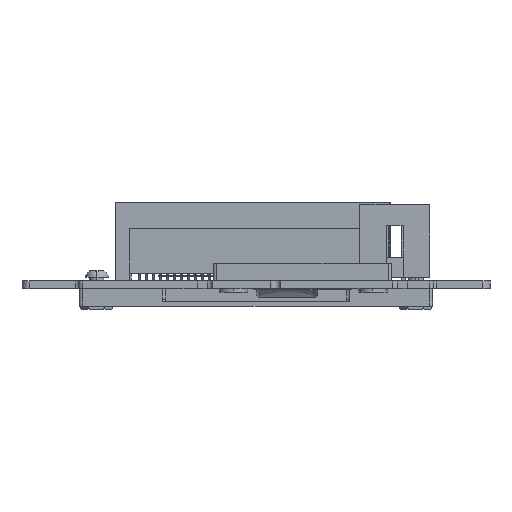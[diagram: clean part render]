
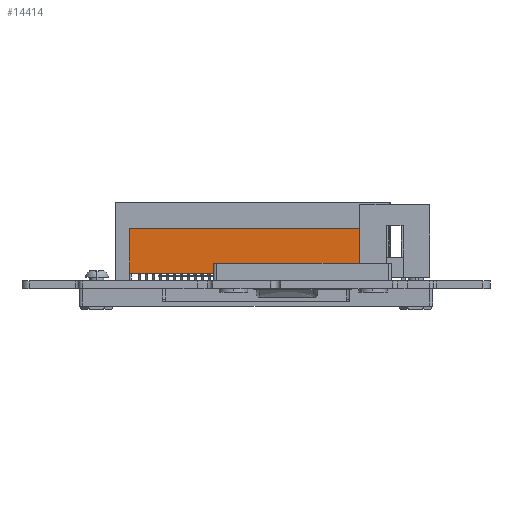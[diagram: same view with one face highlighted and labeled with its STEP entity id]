
A CAD part, front view. The second image highlights one B-rep face of the part: STEP entity #14414.
In plain terms, the highlighted planar face has unit normal (0, -1, 0) as drawn and (0, 0, 1) by its records, which use the part's own axes.
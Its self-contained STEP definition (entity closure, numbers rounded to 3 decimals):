
#9958 = VERTEX_POINT('',#9959);
#9959 = CARTESIAN_POINT('',(2.417,-7.333,3.965));
#10038 = VERTEX_POINT('',#10039);
#10039 = CARTESIAN_POINT('',(37.838,-7.333,3.965));
#10045 = EDGE_CURVE('',#10038,#9958,#10046,.T.);
#10046 = LINE('',#10047,#10048);
#10047 = CARTESIAN_POINT('',(31.028,-7.333,3.965));
#10048 = VECTOR('',#10049,1.);
#10049 = DIRECTION('',(-1.,0.,0.));
#14414 = ADVANCED_FACE('',(#14415),#14440,.F.);
#14415 = FACE_BOUND('',#14416,.T.);
#14416 = EDGE_LOOP('',(#14417,#14427,#14433,#14434));
#14417 = ORIENTED_EDGE('',*,*,#14418,.F.);
#14418 = EDGE_CURVE('',#14419,#14421,#14423,.T.);
#14419 = VERTEX_POINT('',#14420);
#14420 = CARTESIAN_POINT('',(2.417,-0.883,3.965));
#14421 = VERTEX_POINT('',#14422);
#14422 = CARTESIAN_POINT('',(37.838,-0.883,3.965));
#14423 = LINE('',#14424,#14425);
#14424 = CARTESIAN_POINT('',(-47.162,-0.883,3.965));
#14425 = VECTOR('',#14426,1.);
#14426 = DIRECTION('',(1.,0.,0.));
#14427 = ORIENTED_EDGE('',*,*,#14428,.T.);
#14428 = EDGE_CURVE('',#14419,#9958,#14429,.T.);
#14429 = LINE('',#14430,#14431);
#14430 = CARTESIAN_POINT('',(2.417,-0.883,3.965));
#14431 = VECTOR('',#14432,1.);
#14432 = DIRECTION('',(0.,-1.,0.));
#14433 = ORIENTED_EDGE('',*,*,#10045,.F.);
#14434 = ORIENTED_EDGE('',*,*,#14435,.F.);
#14435 = EDGE_CURVE('',#14421,#10038,#14436,.T.);
#14436 = LINE('',#14437,#14438);
#14437 = CARTESIAN_POINT('',(37.838,-0.883,3.965));
#14438 = VECTOR('',#14439,1.);
#14439 = DIRECTION('',(0.,-1.,0.));
#14440 = PLANE('',#14441);
#14441 = AXIS2_PLACEMENT_3D('',#14442,#14443,#14444);
#14442 = CARTESIAN_POINT('',(-47.162,-0.883,3.965));
#14443 = DIRECTION('',(0.,0.,-1.));
#14444 = DIRECTION('',(-1.,0.,0.));
